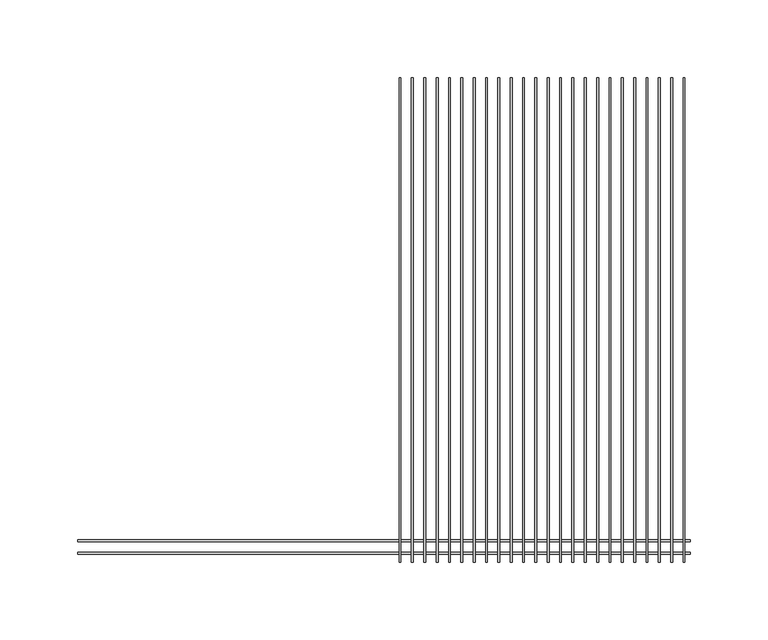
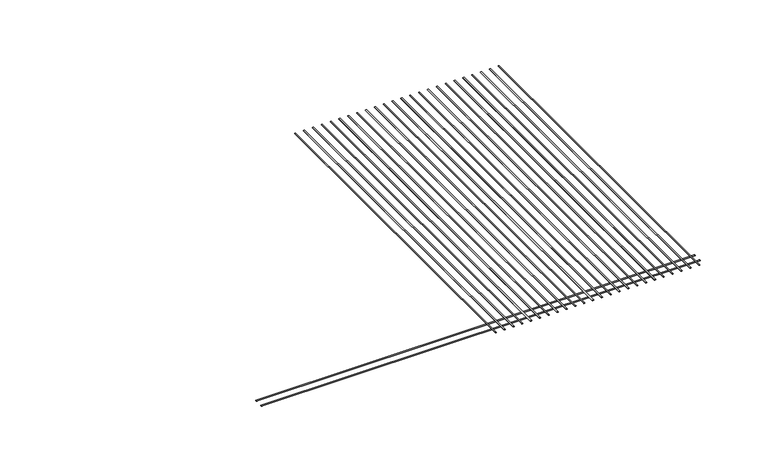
"""IFC4 building model written with IfcOpenShell, lengths in millimetres: proxy geometry, CRAi Generic Model Mesh Piece Face Based : CRAi Generic Model Mesh Piece Face Based."""

from ifc_helpers import new_model, si_unit, point, frame, origin, place, context, project, spatial, ellipse_curve, trimmed, source, transform, mapped, element, save
from ifc_brep_helpers import plane_surface, extruded_surface, advanced_brep


def generic_models_db5184ed(model_context):
    return source(origin(), model_context, "Body", "AdvancedBrep", [
        advanced_brep(
        [(9.7234375, 155.6875423, -2.5796875), (10.9140625, 155.6875423, -2.5796875), (9.7234375, -155.6875423, -2.5796875), (10.9140625, -155.6875423, -2.5796875)],
        [
            (0, 1, ellipse_curve(frame((10.31875, 155.6875423, -2.5796875), z_axis=(0.0, 1.0, 0.0), x_axis=(1.0, 0.0, 0.0)), 0.5953125, 0.1984375)),
            (1, 0, ellipse_curve(frame((10.31875, 155.6875423, -2.5796875), z_axis=(0.0, 1.0, 0.0), x_axis=(1.0, 0.0, 0.0)), 0.5953125, 0.1984375)),
            (2, 3, ellipse_curve(frame((10.31875, -155.6875423, -2.5796875), z_axis=(0.0, -1.0, 0.0), x_axis=(1.0, 0.0, 0.0)), 0.5953125, 0.1984375)),
            (3, 2, ellipse_curve(frame((10.31875, -155.6875423, -2.5796875), z_axis=(0.0, -1.0, 0.0), x_axis=(1.0, 0.0, 0.0)), 0.5953125, 0.1984375)),
            (1, 3),
            (2, 0),
        ],
        [
            plane_surface(frame((10.31875, 155.6875423, -2.5796875), z_axis=(0.0, 1.0, 0.0), x_axis=(0.0, 0.0, 1.0))),
            plane_surface(frame((10.31875, -155.6875423, -2.5796875), z_axis=(0.0, -1.0, 0.0), x_axis=(0.0, 0.0, 1.0))),
            extruded_surface(trimmed(ellipse_curve(frame((10.31875, 155.6875423, -2.5796875), z_axis=(0.0, -1.0, 0.0), x_axis=(1.0, 0.0, 0.0)), 0.5953125, 0.1984375), [point((9.7234375, 155.6875423, -2.5796875))], [point((10.9140625, 155.6875423, -2.5796875))], True, "CARTESIAN"), (0.0, -311.3750846, 0.0), 311.3750846),
            extruded_surface(trimmed(ellipse_curve(frame((10.31875, 155.6875423, -2.5796875), z_axis=(0.0, -1.0, 0.0), x_axis=(1.0, 0.0, 0.0)), 0.5953125, 0.1984375), [point((10.9140625, 155.6875423, -2.5796875))], [point((9.7234375, 155.6875423, -2.5796875))], True, "CARTESIAN"), (0.0, -311.3750846, 0.0), 311.3750846),
        ],
        [
            (0, [[1, 2]]),
            (1, [[3, 4]]),
            (2, [[5, -3, 6, -2]]),
            (3, [[-6, -4, -5, -1]]),
        ],
    ),
        advanced_brep(
        [(17.6609375, 155.6875423, -2.5796875), (18.8515625, 155.6875423, -2.5796875), (17.6609375, -155.6875423, -2.5796875), (18.8515625, -155.6875423, -2.5796875)],
        [
            (0, 1, ellipse_curve(frame((18.25625, 155.6875423, -2.5796875), z_axis=(0.0, 1.0, 0.0), x_axis=(1.0, 0.0, 0.0)), 0.5953125, 0.1984375)),
            (1, 0, ellipse_curve(frame((18.25625, 155.6875423, -2.5796875), z_axis=(0.0, 1.0, 0.0), x_axis=(1.0, 0.0, 0.0)), 0.5953125, 0.1984375)),
            (2, 3, ellipse_curve(frame((18.25625, -155.6875423, -2.5796875), z_axis=(0.0, -1.0, 0.0), x_axis=(1.0, 0.0, 0.0)), 0.5953125, 0.1984375)),
            (3, 2, ellipse_curve(frame((18.25625, -155.6875423, -2.5796875), z_axis=(0.0, -1.0, 0.0), x_axis=(1.0, 0.0, 0.0)), 0.5953125, 0.1984375)),
            (1, 3),
            (2, 0),
        ],
        [
            plane_surface(frame((18.25625, 155.6875423, -2.5796875), z_axis=(0.0, 1.0, 0.0), x_axis=(0.0, 0.0, 1.0))),
            plane_surface(frame((18.25625, -155.6875423, -2.5796875), z_axis=(0.0, -1.0, 0.0), x_axis=(0.0, 0.0, 1.0))),
            extruded_surface(trimmed(ellipse_curve(frame((18.25625, 155.6875423, -2.5796875), z_axis=(0.0, -1.0, 0.0), x_axis=(1.0, 0.0, 0.0)), 0.5953125, 0.1984375), [point((17.6609375, 155.6875423, -2.5796875))], [point((18.8515625, 155.6875423, -2.5796875))], True, "CARTESIAN"), (0.0, -311.3750846, 0.0), 311.3750846),
            extruded_surface(trimmed(ellipse_curve(frame((18.25625, 155.6875423, -2.5796875), z_axis=(0.0, -1.0, 0.0), x_axis=(1.0, 0.0, 0.0)), 0.5953125, 0.1984375), [point((18.8515625, 155.6875423, -2.5796875))], [point((17.6609375, 155.6875423, -2.5796875))], True, "CARTESIAN"), (0.0, -311.3750846, 0.0), 311.3750846),
        ],
        [
            (0, [[1, 2]]),
            (1, [[3, 4]]),
            (2, [[5, -3, 6, -2]]),
            (3, [[-6, -4, -5, -1]]),
        ],
    ),
        advanced_brep(
        [(25.5984375, 155.6875423, -2.5796875), (26.7890625, 155.6875423, -2.5796875), (25.5984375, -155.6875423, -2.5796875), (26.7890625, -155.6875423, -2.5796875)],
        [
            (0, 1, ellipse_curve(frame((26.19375, 155.6875423, -2.5796875), z_axis=(0.0, 1.0, 0.0), x_axis=(1.0, 0.0, 0.0)), 0.5953125, 0.1984375)),
            (1, 0, ellipse_curve(frame((26.19375, 155.6875423, -2.5796875), z_axis=(0.0, 1.0, 0.0), x_axis=(1.0, 0.0, 0.0)), 0.5953125, 0.1984375)),
            (2, 3, ellipse_curve(frame((26.19375, -155.6875423, -2.5796875), z_axis=(0.0, -1.0, 0.0), x_axis=(1.0, 0.0, 0.0)), 0.5953125, 0.1984375)),
            (3, 2, ellipse_curve(frame((26.19375, -155.6875423, -2.5796875), z_axis=(0.0, -1.0, 0.0), x_axis=(1.0, 0.0, 0.0)), 0.5953125, 0.1984375)),
            (1, 3),
            (2, 0),
        ],
        [
            plane_surface(frame((26.19375, 155.6875423, -2.5796875), z_axis=(0.0, 1.0, 0.0), x_axis=(0.0, 0.0, 1.0))),
            plane_surface(frame((26.19375, -155.6875423, -2.5796875), z_axis=(0.0, -1.0, 0.0), x_axis=(0.0, 0.0, 1.0))),
            extruded_surface(trimmed(ellipse_curve(frame((26.19375, 155.6875423, -2.5796875), z_axis=(0.0, -1.0, 0.0), x_axis=(1.0, 0.0, 0.0)), 0.5953125, 0.1984375), [point((25.5984375, 155.6875423, -2.5796875))], [point((26.7890625, 155.6875423, -2.5796875))], True, "CARTESIAN"), (0.0, -311.3750846, 0.0), 311.3750846),
            extruded_surface(trimmed(ellipse_curve(frame((26.19375, 155.6875423, -2.5796875), z_axis=(0.0, -1.0, 0.0), x_axis=(1.0, 0.0, 0.0)), 0.5953125, 0.1984375), [point((26.7890625, 155.6875423, -2.5796875))], [point((25.5984375, 155.6875423, -2.5796875))], True, "CARTESIAN"), (0.0, -311.3750846, 0.0), 311.3750846),
        ],
        [
            (0, [[1, 2]]),
            (1, [[3, 4]]),
            (2, [[5, -3, 6, -2]]),
            (3, [[-6, -4, -5, -1]]),
        ],
    ),
        advanced_brep(
        [(33.5359375, 155.6875423, -2.5796875), (34.7265625, 155.6875423, -2.5796875), (33.5359375, -155.6875423, -2.5796875), (34.7265625, -155.6875423, -2.5796875)],
        [
            (0, 1, ellipse_curve(frame((34.13125, 155.6875423, -2.5796875), z_axis=(0.0, 1.0, 0.0), x_axis=(1.0, 0.0, 0.0)), 0.5953125, 0.1984375)),
            (1, 0, ellipse_curve(frame((34.13125, 155.6875423, -2.5796875), z_axis=(0.0, 1.0, 0.0), x_axis=(1.0, 0.0, 0.0)), 0.5953125, 0.1984375)),
            (2, 3, ellipse_curve(frame((34.13125, -155.6875423, -2.5796875), z_axis=(0.0, -1.0, 0.0), x_axis=(1.0, 0.0, 0.0)), 0.5953125, 0.1984375)),
            (3, 2, ellipse_curve(frame((34.13125, -155.6875423, -2.5796875), z_axis=(0.0, -1.0, 0.0), x_axis=(1.0, 0.0, 0.0)), 0.5953125, 0.1984375)),
            (1, 3),
            (2, 0),
        ],
        [
            plane_surface(frame((34.13125, 155.6875423, -2.5796875), z_axis=(0.0, 1.0, 0.0), x_axis=(0.0, 0.0, 1.0))),
            plane_surface(frame((34.13125, -155.6875423, -2.5796875), z_axis=(0.0, -1.0, 0.0), x_axis=(0.0, 0.0, 1.0))),
            extruded_surface(trimmed(ellipse_curve(frame((34.13125, 155.6875423, -2.5796875), z_axis=(0.0, -1.0, 0.0), x_axis=(1.0, 0.0, 0.0)), 0.5953125, 0.1984375), [point((33.5359375, 155.6875423, -2.5796875))], [point((34.7265625, 155.6875423, -2.5796875))], True, "CARTESIAN"), (0.0, -311.3750846, 0.0), 311.3750846),
            extruded_surface(trimmed(ellipse_curve(frame((34.13125, 155.6875423, -2.5796875), z_axis=(0.0, -1.0, 0.0), x_axis=(1.0, 0.0, 0.0)), 0.5953125, 0.1984375), [point((34.7265625, 155.6875423, -2.5796875))], [point((33.5359375, 155.6875423, -2.5796875))], True, "CARTESIAN"), (0.0, -311.3750846, 0.0), 311.3750846),
        ],
        [
            (0, [[1, 2]]),
            (1, [[3, 4]]),
            (2, [[5, -3, 6, -2]]),
            (3, [[-6, -4, -5, -1]]),
        ],
    ),
        advanced_brep(
        [(41.4734375, 155.6875423, -2.5796875), (42.6640625, 155.6875423, -2.5796875), (41.4734375, -155.6875423, -2.5796875), (42.6640625, -155.6875423, -2.5796875)],
        [
            (0, 1, ellipse_curve(frame((42.06875, 155.6875423, -2.5796875), z_axis=(0.0, 1.0, 0.0), x_axis=(1.0, 0.0, 0.0)), 0.5953125, 0.1984375)),
            (1, 0, ellipse_curve(frame((42.06875, 155.6875423, -2.5796875), z_axis=(0.0, 1.0, 0.0), x_axis=(1.0, 0.0, 0.0)), 0.5953125, 0.1984375)),
            (2, 3, ellipse_curve(frame((42.06875, -155.6875423, -2.5796875), z_axis=(0.0, -1.0, 0.0), x_axis=(1.0, 0.0, 0.0)), 0.5953125, 0.1984375)),
            (3, 2, ellipse_curve(frame((42.06875, -155.6875423, -2.5796875), z_axis=(0.0, -1.0, 0.0), x_axis=(1.0, 0.0, 0.0)), 0.5953125, 0.1984375)),
            (1, 3),
            (2, 0),
        ],
        [
            plane_surface(frame((42.06875, 155.6875423, -2.5796875), z_axis=(0.0, 1.0, 0.0), x_axis=(0.0, 0.0, 1.0))),
            plane_surface(frame((42.06875, -155.6875423, -2.5796875), z_axis=(0.0, -1.0, 0.0), x_axis=(0.0, 0.0, 1.0))),
            extruded_surface(trimmed(ellipse_curve(frame((42.06875, 155.6875423, -2.5796875), z_axis=(0.0, -1.0, 0.0), x_axis=(1.0, 0.0, 0.0)), 0.5953125, 0.1984375), [point((41.4734375, 155.6875423, -2.5796875))], [point((42.6640625, 155.6875423, -2.5796875))], True, "CARTESIAN"), (0.0, -311.3750846, 0.0), 311.3750846),
            extruded_surface(trimmed(ellipse_curve(frame((42.06875, 155.6875423, -2.5796875), z_axis=(0.0, -1.0, 0.0), x_axis=(1.0, 0.0, 0.0)), 0.5953125, 0.1984375), [point((42.6640625, 155.6875423, -2.5796875))], [point((41.4734375, 155.6875423, -2.5796875))], True, "CARTESIAN"), (0.0, -311.3750846, 0.0), 311.3750846),
        ],
        [
            (0, [[1, 2]]),
            (1, [[3, 4]]),
            (2, [[5, -3, 6, -2]]),
            (3, [[-6, -4, -5, -1]]),
        ],
    ),
        advanced_brep(
        [(49.4109375, 155.6875423, -2.5796875), (50.6015625, 155.6875423, -2.5796875), (49.4109375, -155.6875423, -2.5796875), (50.6015625, -155.6875423, -2.5796875)],
        [
            (0, 1, ellipse_curve(frame((50.00625, 155.6875423, -2.5796875), z_axis=(0.0, 1.0, 0.0), x_axis=(1.0, 0.0, 0.0)), 0.5953125, 0.1984375)),
            (1, 0, ellipse_curve(frame((50.00625, 155.6875423, -2.5796875), z_axis=(0.0, 1.0, 0.0), x_axis=(1.0, 0.0, 0.0)), 0.5953125, 0.1984375)),
            (2, 3, ellipse_curve(frame((50.00625, -155.6875423, -2.5796875), z_axis=(0.0, -1.0, 0.0), x_axis=(1.0, 0.0, 0.0)), 0.5953125, 0.1984375)),
            (3, 2, ellipse_curve(frame((50.00625, -155.6875423, -2.5796875), z_axis=(0.0, -1.0, 0.0), x_axis=(1.0, 0.0, 0.0)), 0.5953125, 0.1984375)),
            (1, 3),
            (2, 0),
        ],
        [
            plane_surface(frame((50.00625, 155.6875423, -2.5796875), z_axis=(0.0, 1.0, 0.0), x_axis=(0.0, 0.0, 1.0))),
            plane_surface(frame((50.00625, -155.6875423, -2.5796875), z_axis=(0.0, -1.0, 0.0), x_axis=(0.0, 0.0, 1.0))),
            extruded_surface(trimmed(ellipse_curve(frame((50.00625, 155.6875423, -2.5796875), z_axis=(0.0, -1.0, 0.0), x_axis=(1.0, 0.0, 0.0)), 0.5953125, 0.1984375), [point((49.4109375, 155.6875423, -2.5796875))], [point((50.6015625, 155.6875423, -2.5796875))], True, "CARTESIAN"), (0.0, -311.3750846, 0.0), 311.3750846),
            extruded_surface(trimmed(ellipse_curve(frame((50.00625, 155.6875423, -2.5796875), z_axis=(0.0, -1.0, 0.0), x_axis=(1.0, 0.0, 0.0)), 0.5953125, 0.1984375), [point((50.6015625, 155.6875423, -2.5796875))], [point((49.4109375, 155.6875423, -2.5796875))], True, "CARTESIAN"), (0.0, -311.3750846, 0.0), 311.3750846),
        ],
        [
            (0, [[1, 2]]),
            (1, [[3, 4]]),
            (2, [[5, -3, 6, -2]]),
            (3, [[-6, -4, -5, -1]]),
        ],
    ),
        advanced_brep(
        [(57.3484375, 155.6875423, -2.5796875), (58.5390625, 155.6875423, -2.5796875), (57.3484375, -155.6875423, -2.5796875), (58.5390625, -155.6875423, -2.5796875)],
        [
            (0, 1, ellipse_curve(frame((57.94375, 155.6875423, -2.5796875), z_axis=(0.0, 1.0, 0.0), x_axis=(1.0, 0.0, 0.0)), 0.5953125, 0.1984375)),
            (1, 0, ellipse_curve(frame((57.94375, 155.6875423, -2.5796875), z_axis=(0.0, 1.0, 0.0), x_axis=(1.0, 0.0, 0.0)), 0.5953125, 0.1984375)),
            (2, 3, ellipse_curve(frame((57.94375, -155.6875423, -2.5796875), z_axis=(0.0, -1.0, 0.0), x_axis=(1.0, 0.0, 0.0)), 0.5953125, 0.1984375)),
            (3, 2, ellipse_curve(frame((57.94375, -155.6875423, -2.5796875), z_axis=(0.0, -1.0, 0.0), x_axis=(1.0, 0.0, 0.0)), 0.5953125, 0.1984375)),
            (1, 3),
            (2, 0),
        ],
        [
            plane_surface(frame((57.94375, 155.6875423, -2.5796875), z_axis=(0.0, 1.0, 0.0), x_axis=(0.0, 0.0, 1.0))),
            plane_surface(frame((57.94375, -155.6875423, -2.5796875), z_axis=(0.0, -1.0, 0.0), x_axis=(0.0, 0.0, 1.0))),
            extruded_surface(trimmed(ellipse_curve(frame((57.94375, 155.6875423, -2.5796875), z_axis=(0.0, -1.0, 0.0), x_axis=(1.0, 0.0, 0.0)), 0.5953125, 0.1984375), [point((57.3484375, 155.6875423, -2.5796875))], [point((58.5390625, 155.6875423, -2.5796875))], True, "CARTESIAN"), (0.0, -311.3750846, 0.0), 311.3750846),
            extruded_surface(trimmed(ellipse_curve(frame((57.94375, 155.6875423, -2.5796875), z_axis=(0.0, -1.0, 0.0), x_axis=(1.0, 0.0, 0.0)), 0.5953125, 0.1984375), [point((58.5390625, 155.6875423, -2.5796875))], [point((57.3484375, 155.6875423, -2.5796875))], True, "CARTESIAN"), (0.0, -311.3750846, 0.0), 311.3750846),
        ],
        [
            (0, [[1, 2]]),
            (1, [[3, 4]]),
            (2, [[5, -3, 6, -2]]),
            (3, [[-6, -4, -5, -1]]),
        ],
    ),
        advanced_brep(
        [(65.2859375, 155.6875423, -2.5796875), (66.4765625, 155.6875423, -2.5796875), (65.2859375, -155.6875423, -2.5796875), (66.4765625, -155.6875423, -2.5796875)],
        [
            (0, 1, ellipse_curve(frame((65.88125, 155.6875423, -2.5796875), z_axis=(0.0, 1.0, 0.0), x_axis=(1.0, 0.0, 0.0)), 0.5953125, 0.1984375)),
            (1, 0, ellipse_curve(frame((65.88125, 155.6875423, -2.5796875), z_axis=(0.0, 1.0, 0.0), x_axis=(1.0, 0.0, 0.0)), 0.5953125, 0.1984375)),
            (2, 3, ellipse_curve(frame((65.88125, -155.6875423, -2.5796875), z_axis=(0.0, -1.0, 0.0), x_axis=(1.0, 0.0, 0.0)), 0.5953125, 0.1984375)),
            (3, 2, ellipse_curve(frame((65.88125, -155.6875423, -2.5796875), z_axis=(0.0, -1.0, 0.0), x_axis=(1.0, 0.0, 0.0)), 0.5953125, 0.1984375)),
            (1, 3),
            (2, 0),
        ],
        [
            plane_surface(frame((65.88125, 155.6875423, -2.5796875), z_axis=(0.0, 1.0, 0.0), x_axis=(0.0, 0.0, 1.0))),
            plane_surface(frame((65.88125, -155.6875423, -2.5796875), z_axis=(0.0, -1.0, 0.0), x_axis=(0.0, 0.0, 1.0))),
            extruded_surface(trimmed(ellipse_curve(frame((65.88125, 155.6875423, -2.5796875), z_axis=(0.0, -1.0, 0.0), x_axis=(1.0, 0.0, 0.0)), 0.5953125, 0.1984375), [point((65.2859375, 155.6875423, -2.5796875))], [point((66.4765625, 155.6875423, -2.5796875))], True, "CARTESIAN"), (0.0, -311.3750846, 0.0), 311.3750846),
            extruded_surface(trimmed(ellipse_curve(frame((65.88125, 155.6875423, -2.5796875), z_axis=(0.0, -1.0, 0.0), x_axis=(1.0, 0.0, 0.0)), 0.5953125, 0.1984375), [point((66.4765625, 155.6875423, -2.5796875))], [point((65.2859375, 155.6875423, -2.5796875))], True, "CARTESIAN"), (0.0, -311.3750846, 0.0), 311.3750846),
        ],
        [
            (0, [[1, 2]]),
            (1, [[3, 4]]),
            (2, [[5, -3, 6, -2]]),
            (3, [[-6, -4, -5, -1]]),
        ],
    ),
        advanced_brep(
        [(73.2234375, 155.6875423, -2.5796875), (74.4140625, 155.6875423, -2.5796875), (73.2234375, -155.6875423, -2.5796875), (74.4140625, -155.6875423, -2.5796875)],
        [
            (0, 1, ellipse_curve(frame((73.81875, 155.6875423, -2.5796875), z_axis=(0.0, 1.0, 0.0), x_axis=(1.0, 0.0, 0.0)), 0.5953125, 0.1984375)),
            (1, 0, ellipse_curve(frame((73.81875, 155.6875423, -2.5796875), z_axis=(0.0, 1.0, 0.0), x_axis=(1.0, 0.0, 0.0)), 0.5953125, 0.1984375)),
            (2, 3, ellipse_curve(frame((73.81875, -155.6875423, -2.5796875), z_axis=(0.0, -1.0, 0.0), x_axis=(1.0, 0.0, 0.0)), 0.5953125, 0.1984375)),
            (3, 2, ellipse_curve(frame((73.81875, -155.6875423, -2.5796875), z_axis=(0.0, -1.0, 0.0), x_axis=(1.0, 0.0, 0.0)), 0.5953125, 0.1984375)),
            (1, 3),
            (2, 0),
        ],
        [
            plane_surface(frame((73.81875, 155.6875423, -2.5796875), z_axis=(0.0, 1.0, 0.0), x_axis=(0.0, 0.0, 1.0))),
            plane_surface(frame((73.81875, -155.6875423, -2.5796875), z_axis=(0.0, -1.0, 0.0), x_axis=(0.0, 0.0, 1.0))),
            extruded_surface(trimmed(ellipse_curve(frame((73.81875, 155.6875423, -2.5796875), z_axis=(0.0, -1.0, 0.0), x_axis=(1.0, 0.0, 0.0)), 0.5953125, 0.1984375), [point((73.2234375, 155.6875423, -2.5796875))], [point((74.4140625, 155.6875423, -2.5796875))], True, "CARTESIAN"), (0.0, -311.3750846, 0.0), 311.3750846),
            extruded_surface(trimmed(ellipse_curve(frame((73.81875, 155.6875423, -2.5796875), z_axis=(0.0, -1.0, 0.0), x_axis=(1.0, 0.0, 0.0)), 0.5953125, 0.1984375), [point((74.4140625, 155.6875423, -2.5796875))], [point((73.2234375, 155.6875423, -2.5796875))], True, "CARTESIAN"), (0.0, -311.3750846, 0.0), 311.3750846),
        ],
        [
            (0, [[1, 2]]),
            (1, [[3, 4]]),
            (2, [[5, -3, 6, -2]]),
            (3, [[-6, -4, -5, -1]]),
        ],
    ),
        advanced_brep(
        [(81.1609375, 155.6875423, -2.5796875), (82.3515625, 155.6875423, -2.5796875), (81.1609375, -155.6875423, -2.5796875), (82.3515625, -155.6875423, -2.5796875)],
        [
            (0, 1, ellipse_curve(frame((81.75625, 155.6875423, -2.5796875), z_axis=(0.0, 1.0, 0.0), x_axis=(1.0, 0.0, 0.0)), 0.5953125, 0.1984375)),
            (1, 0, ellipse_curve(frame((81.75625, 155.6875423, -2.5796875), z_axis=(0.0, 1.0, 0.0), x_axis=(1.0, 0.0, 0.0)), 0.5953125, 0.1984375)),
            (2, 3, ellipse_curve(frame((81.75625, -155.6875423, -2.5796875), z_axis=(0.0, -1.0, 0.0), x_axis=(1.0, 0.0, 0.0)), 0.5953125, 0.1984375)),
            (3, 2, ellipse_curve(frame((81.75625, -155.6875423, -2.5796875), z_axis=(0.0, -1.0, 0.0), x_axis=(1.0, 0.0, 0.0)), 0.5953125, 0.1984375)),
            (1, 3),
            (2, 0),
        ],
        [
            plane_surface(frame((81.75625, 155.6875423, -2.5796875), z_axis=(0.0, 1.0, 0.0), x_axis=(0.0, 0.0, 1.0))),
            plane_surface(frame((81.75625, -155.6875423, -2.5796875), z_axis=(0.0, -1.0, 0.0), x_axis=(0.0, 0.0, 1.0))),
            extruded_surface(trimmed(ellipse_curve(frame((81.75625, 155.6875423, -2.5796875), z_axis=(0.0, -1.0, 0.0), x_axis=(1.0, 0.0, 0.0)), 0.5953125, 0.1984375), [point((81.1609375, 155.6875423, -2.5796875))], [point((82.3515625, 155.6875423, -2.5796875))], True, "CARTESIAN"), (0.0, -311.3750846, 0.0), 311.3750846),
            extruded_surface(trimmed(ellipse_curve(frame((81.75625, 155.6875423, -2.5796875), z_axis=(0.0, -1.0, 0.0), x_axis=(1.0, 0.0, 0.0)), 0.5953125, 0.1984375), [point((82.3515625, 155.6875423, -2.5796875))], [point((81.1609375, 155.6875423, -2.5796875))], True, "CARTESIAN"), (0.0, -311.3750846, 0.0), 311.3750846),
        ],
        [
            (0, [[1, 2]]),
            (1, [[3, 4]]),
            (2, [[5, -3, 6, -2]]),
            (3, [[-6, -4, -5, -1]]),
        ],
    ),
        advanced_brep(
        [(89.0984375, 155.6875423, -2.5796875), (90.2890625, 155.6875423, -2.5796875), (89.0984375, -155.6875423, -2.5796875), (90.2890625, -155.6875423, -2.5796875)],
        [
            (0, 1, ellipse_curve(frame((89.69375, 155.6875423, -2.5796875), z_axis=(0.0, 1.0, 0.0), x_axis=(1.0, 0.0, 0.0)), 0.5953125, 0.1984375)),
            (1, 0, ellipse_curve(frame((89.69375, 155.6875423, -2.5796875), z_axis=(0.0, 1.0, 0.0), x_axis=(1.0, 0.0, 0.0)), 0.5953125, 0.1984375)),
            (2, 3, ellipse_curve(frame((89.69375, -155.6875423, -2.5796875), z_axis=(0.0, -1.0, 0.0), x_axis=(1.0, 0.0, 0.0)), 0.5953125, 0.1984375)),
            (3, 2, ellipse_curve(frame((89.69375, -155.6875423, -2.5796875), z_axis=(0.0, -1.0, 0.0), x_axis=(1.0, 0.0, 0.0)), 0.5953125, 0.1984375)),
            (1, 3),
            (2, 0),
        ],
        [
            plane_surface(frame((89.69375, 155.6875423, -2.5796875), z_axis=(0.0, 1.0, 0.0), x_axis=(0.0, 0.0, 1.0))),
            plane_surface(frame((89.69375, -155.6875423, -2.5796875), z_axis=(0.0, -1.0, 0.0), x_axis=(0.0, 0.0, 1.0))),
            extruded_surface(trimmed(ellipse_curve(frame((89.69375, 155.6875423, -2.5796875), z_axis=(0.0, -1.0, 0.0), x_axis=(1.0, 0.0, 0.0)), 0.5953125, 0.1984375), [point((89.0984375, 155.6875423, -2.5796875))], [point((90.2890625, 155.6875423, -2.5796875))], True, "CARTESIAN"), (0.0, -311.3750846, 0.0), 311.3750846),
            extruded_surface(trimmed(ellipse_curve(frame((89.69375, 155.6875423, -2.5796875), z_axis=(0.0, -1.0, 0.0), x_axis=(1.0, 0.0, 0.0)), 0.5953125, 0.1984375), [point((90.2890625, 155.6875423, -2.5796875))], [point((89.0984375, 155.6875423, -2.5796875))], True, "CARTESIAN"), (0.0, -311.3750846, 0.0), 311.3750846),
        ],
        [
            (0, [[1, 2]]),
            (1, [[3, 4]]),
            (2, [[5, -3, 6, -2]]),
            (3, [[-6, -4, -5, -1]]),
        ],
    ),
        advanced_brep(
        [(97.0359375, 155.6875423, -2.5796875), (98.2265625, 155.6875423, -2.5796875), (97.0359375, -155.6875423, -2.5796875), (98.2265625, -155.6875423, -2.5796875)],
        [
            (0, 1, ellipse_curve(frame((97.63125, 155.6875423, -2.5796875), z_axis=(0.0, 1.0, 0.0), x_axis=(1.0, 0.0, 0.0)), 0.5953125, 0.1984375)),
            (1, 0, ellipse_curve(frame((97.63125, 155.6875423, -2.5796875), z_axis=(0.0, 1.0, 0.0), x_axis=(1.0, 0.0, 0.0)), 0.5953125, 0.1984375)),
            (2, 3, ellipse_curve(frame((97.63125, -155.6875423, -2.5796875), z_axis=(0.0, -1.0, 0.0), x_axis=(1.0, 0.0, 0.0)), 0.5953125, 0.1984375)),
            (3, 2, ellipse_curve(frame((97.63125, -155.6875423, -2.5796875), z_axis=(0.0, -1.0, 0.0), x_axis=(1.0, 0.0, 0.0)), 0.5953125, 0.1984375)),
            (1, 3),
            (2, 0),
        ],
        [
            plane_surface(frame((97.63125, 155.6875423, -2.5796875), z_axis=(0.0, 1.0, 0.0), x_axis=(0.0, 0.0, 1.0))),
            plane_surface(frame((97.63125, -155.6875423, -2.5796875), z_axis=(0.0, -1.0, 0.0), x_axis=(0.0, 0.0, 1.0))),
            extruded_surface(trimmed(ellipse_curve(frame((97.63125, 155.6875423, -2.5796875), z_axis=(0.0, -1.0, 0.0), x_axis=(1.0, 0.0, 0.0)), 0.5953125, 0.1984375), [point((97.0359375, 155.6875423, -2.5796875))], [point((98.2265625, 155.6875423, -2.5796875))], True, "CARTESIAN"), (0.0, -311.3750846, 0.0), 311.3750846),
            extruded_surface(trimmed(ellipse_curve(frame((97.63125, 155.6875423, -2.5796875), z_axis=(0.0, -1.0, 0.0), x_axis=(1.0, 0.0, 0.0)), 0.5953125, 0.1984375), [point((98.2265625, 155.6875423, -2.5796875))], [point((97.0359375, 155.6875423, -2.5796875))], True, "CARTESIAN"), (0.0, -311.3750846, 0.0), 311.3750846),
        ],
        [
            (0, [[1, 2]]),
            (1, [[3, 4]]),
            (2, [[5, -3, 6, -2]]),
            (3, [[-6, -4, -5, -1]]),
        ],
    ),
        advanced_brep(
        [(104.9734375, 155.6875423, -2.5796875), (106.1640625, 155.6875423, -2.5796875), (104.9734375, -155.6875423, -2.5796875), (106.1640625, -155.6875423, -2.5796875)],
        [
            (0, 1, ellipse_curve(frame((105.56875, 155.6875423, -2.5796875), z_axis=(0.0, 1.0, 0.0), x_axis=(1.0, 0.0, 0.0)), 0.5953125, 0.1984375)),
            (1, 0, ellipse_curve(frame((105.56875, 155.6875423, -2.5796875), z_axis=(0.0, 1.0, 0.0), x_axis=(1.0, 0.0, 0.0)), 0.5953125, 0.1984375)),
            (2, 3, ellipse_curve(frame((105.56875, -155.6875423, -2.5796875), z_axis=(0.0, -1.0, 0.0), x_axis=(1.0, 0.0, 0.0)), 0.5953125, 0.1984375)),
            (3, 2, ellipse_curve(frame((105.56875, -155.6875423, -2.5796875), z_axis=(0.0, -1.0, 0.0), x_axis=(1.0, 0.0, 0.0)), 0.5953125, 0.1984375)),
            (1, 3),
            (2, 0),
        ],
        [
            plane_surface(frame((105.56875, 155.6875423, -2.5796875), z_axis=(0.0, 1.0, 0.0), x_axis=(0.0, 0.0, 1.0))),
            plane_surface(frame((105.56875, -155.6875423, -2.5796875), z_axis=(0.0, -1.0, 0.0), x_axis=(0.0, 0.0, 1.0))),
            extruded_surface(trimmed(ellipse_curve(frame((105.56875, 155.6875423, -2.5796875), z_axis=(0.0, -1.0, 0.0), x_axis=(1.0, 0.0, 0.0)), 0.5953125, 0.1984375), [point((104.9734375, 155.6875423, -2.5796875))], [point((106.1640625, 155.6875423, -2.5796875))], True, "CARTESIAN"), (0.0, -311.3750846, 0.0), 311.3750846),
            extruded_surface(trimmed(ellipse_curve(frame((105.56875, 155.6875423, -2.5796875), z_axis=(0.0, -1.0, 0.0), x_axis=(1.0, 0.0, 0.0)), 0.5953125, 0.1984375), [point((106.1640625, 155.6875423, -2.5796875))], [point((104.9734375, 155.6875423, -2.5796875))], True, "CARTESIAN"), (0.0, -311.3750846, 0.0), 311.3750846),
        ],
        [
            (0, [[1, 2]]),
            (1, [[3, 4]]),
            (2, [[5, -3, 6, -2]]),
            (3, [[-6, -4, -5, -1]]),
        ],
    ),
        advanced_brep(
        [(112.9109375, 155.6875423, -2.5796875), (114.1015625, 155.6875423, -2.5796875), (112.9109375, -155.6875423, -2.5796875), (114.1015625, -155.6875423, -2.5796875)],
        [
            (0, 1, ellipse_curve(frame((113.50625, 155.6875423, -2.5796875), z_axis=(0.0, 1.0, 0.0), x_axis=(1.0, 0.0, 0.0)), 0.5953125, 0.1984375)),
            (1, 0, ellipse_curve(frame((113.50625, 155.6875423, -2.5796875), z_axis=(0.0, 1.0, 0.0), x_axis=(1.0, 0.0, 0.0)), 0.5953125, 0.1984375)),
            (2, 3, ellipse_curve(frame((113.50625, -155.6875423, -2.5796875), z_axis=(0.0, -1.0, 0.0), x_axis=(1.0, 0.0, 0.0)), 0.5953125, 0.1984375)),
            (3, 2, ellipse_curve(frame((113.50625, -155.6875423, -2.5796875), z_axis=(0.0, -1.0, 0.0), x_axis=(1.0, 0.0, 0.0)), 0.5953125, 0.1984375)),
            (1, 3),
            (2, 0),
        ],
        [
            plane_surface(frame((113.50625, 155.6875423, -2.5796875), z_axis=(0.0, 1.0, 0.0), x_axis=(0.0, 0.0, 1.0))),
            plane_surface(frame((113.50625, -155.6875423, -2.5796875), z_axis=(0.0, -1.0, 0.0), x_axis=(0.0, 0.0, 1.0))),
            extruded_surface(trimmed(ellipse_curve(frame((113.50625, 155.6875423, -2.5796875), z_axis=(0.0, -1.0, 0.0), x_axis=(1.0, 0.0, 0.0)), 0.5953125, 0.1984375), [point((112.9109375, 155.6875423, -2.5796875))], [point((114.1015625, 155.6875423, -2.5796875))], True, "CARTESIAN"), (0.0, -311.3750846, 0.0), 311.3750846),
            extruded_surface(trimmed(ellipse_curve(frame((113.50625, 155.6875423, -2.5796875), z_axis=(0.0, -1.0, 0.0), x_axis=(1.0, 0.0, 0.0)), 0.5953125, 0.1984375), [point((114.1015625, 155.6875423, -2.5796875))], [point((112.9109375, 155.6875423, -2.5796875))], True, "CARTESIAN"), (0.0, -311.3750846, 0.0), 311.3750846),
        ],
        [
            (0, [[1, 2]]),
            (1, [[3, 4]]),
            (2, [[5, -3, 6, -2]]),
            (3, [[-6, -4, -5, -1]]),
        ],
    ),
        advanced_brep(
        [(120.8484375, 155.6875423, -2.5796875), (122.0390625, 155.6875423, -2.5796875), (120.8484375, -155.6875423, -2.5796875), (122.0390625, -155.6875423, -2.5796875)],
        [
            (0, 1, ellipse_curve(frame((121.44375, 155.6875423, -2.5796875), z_axis=(0.0, 1.0, 0.0), x_axis=(1.0, 0.0, 0.0)), 0.5953125, 0.1984375)),
            (1, 0, ellipse_curve(frame((121.44375, 155.6875423, -2.5796875), z_axis=(0.0, 1.0, 0.0), x_axis=(1.0, 0.0, 0.0)), 0.5953125, 0.1984375)),
            (2, 3, ellipse_curve(frame((121.44375, -155.6875423, -2.5796875), z_axis=(0.0, -1.0, 0.0), x_axis=(1.0, 0.0, 0.0)), 0.5953125, 0.1984375)),
            (3, 2, ellipse_curve(frame((121.44375, -155.6875423, -2.5796875), z_axis=(0.0, -1.0, 0.0), x_axis=(1.0, 0.0, 0.0)), 0.5953125, 0.1984375)),
            (1, 3),
            (2, 0),
        ],
        [
            plane_surface(frame((121.44375, 155.6875423, -2.5796875), z_axis=(0.0, 1.0, 0.0), x_axis=(0.0, 0.0, 1.0))),
            plane_surface(frame((121.44375, -155.6875423, -2.5796875), z_axis=(0.0, -1.0, 0.0), x_axis=(0.0, 0.0, 1.0))),
            extruded_surface(trimmed(ellipse_curve(frame((121.44375, 155.6875423, -2.5796875), z_axis=(0.0, -1.0, 0.0), x_axis=(1.0, 0.0, 0.0)), 0.5953125, 0.1984375), [point((120.8484375, 155.6875423, -2.5796875))], [point((122.0390625, 155.6875423, -2.5796875))], True, "CARTESIAN"), (0.0, -311.3750846, 0.0), 311.3750846),
            extruded_surface(trimmed(ellipse_curve(frame((121.44375, 155.6875423, -2.5796875), z_axis=(0.0, -1.0, 0.0), x_axis=(1.0, 0.0, 0.0)), 0.5953125, 0.1984375), [point((122.0390625, 155.6875423, -2.5796875))], [point((120.8484375, 155.6875423, -2.5796875))], True, "CARTESIAN"), (0.0, -311.3750846, 0.0), 311.3750846),
        ],
        [
            (0, [[1, 2]]),
            (1, [[3, 4]]),
            (2, [[5, -3, 6, -2]]),
            (3, [[-6, -4, -5, -1]]),
        ],
    ),
        advanced_brep(
        [(128.7859375, 155.6875423, -2.5796875), (129.9765625, 155.6875423, -2.5796875), (128.7859375, -155.6875423, -2.5796875), (129.9765625, -155.6875423, -2.5796875)],
        [
            (0, 1, ellipse_curve(frame((129.38125, 155.6875423, -2.5796875), z_axis=(0.0, 1.0, 0.0), x_axis=(1.0, 0.0, 0.0)), 0.5953125, 0.1984375)),
            (1, 0, ellipse_curve(frame((129.38125, 155.6875423, -2.5796875), z_axis=(0.0, 1.0, 0.0), x_axis=(1.0, 0.0, 0.0)), 0.5953125, 0.1984375)),
            (2, 3, ellipse_curve(frame((129.38125, -155.6875423, -2.5796875), z_axis=(0.0, -1.0, 0.0), x_axis=(1.0, 0.0, 0.0)), 0.5953125, 0.1984375)),
            (3, 2, ellipse_curve(frame((129.38125, -155.6875423, -2.5796875), z_axis=(0.0, -1.0, 0.0), x_axis=(1.0, 0.0, 0.0)), 0.5953125, 0.1984375)),
            (1, 3),
            (2, 0),
        ],
        [
            plane_surface(frame((129.38125, 155.6875423, -2.5796875), z_axis=(0.0, 1.0, 0.0), x_axis=(0.0, 0.0, 1.0))),
            plane_surface(frame((129.38125, -155.6875423, -2.5796875), z_axis=(0.0, -1.0, 0.0), x_axis=(0.0, 0.0, 1.0))),
            extruded_surface(trimmed(ellipse_curve(frame((129.38125, 155.6875423, -2.5796875), z_axis=(0.0, -1.0, 0.0), x_axis=(1.0, 0.0, 0.0)), 0.5953125, 0.1984375), [point((128.7859375, 155.6875423, -2.5796875))], [point((129.9765625, 155.6875423, -2.5796875))], True, "CARTESIAN"), (0.0, -311.3750846, 0.0), 311.3750846),
            extruded_surface(trimmed(ellipse_curve(frame((129.38125, 155.6875423, -2.5796875), z_axis=(0.0, -1.0, 0.0), x_axis=(1.0, 0.0, 0.0)), 0.5953125, 0.1984375), [point((129.9765625, 155.6875423, -2.5796875))], [point((128.7859375, 155.6875423, -2.5796875))], True, "CARTESIAN"), (0.0, -311.3750846, 0.0), 311.3750846),
        ],
        [
            (0, [[1, 2]]),
            (1, [[3, 4]]),
            (2, [[5, -3, 6, -2]]),
            (3, [[-6, -4, -5, -1]]),
        ],
    ),
        advanced_brep(
        [(136.7234375, 155.6875423, -2.5796875), (137.9140625, 155.6875423, -2.5796875), (136.7234375, -155.6875423, -2.5796875), (137.9140625, -155.6875423, -2.5796875)],
        [
            (0, 1, ellipse_curve(frame((137.31875, 155.6875423, -2.5796875), z_axis=(0.0, 1.0, 0.0), x_axis=(1.0, 0.0, 0.0)), 0.5953125, 0.1984375)),
            (1, 0, ellipse_curve(frame((137.31875, 155.6875423, -2.5796875), z_axis=(0.0, 1.0, 0.0), x_axis=(1.0, 0.0, 0.0)), 0.5953125, 0.1984375)),
            (2, 3, ellipse_curve(frame((137.31875, -155.6875423, -2.5796875), z_axis=(0.0, -1.0, 0.0), x_axis=(1.0, 0.0, 0.0)), 0.5953125, 0.1984375)),
            (3, 2, ellipse_curve(frame((137.31875, -155.6875423, -2.5796875), z_axis=(0.0, -1.0, 0.0), x_axis=(1.0, 0.0, 0.0)), 0.5953125, 0.1984375)),
            (1, 3),
            (2, 0),
        ],
        [
            plane_surface(frame((137.31875, 155.6875423, -2.5796875), z_axis=(0.0, 1.0, 0.0), x_axis=(0.0, 0.0, 1.0))),
            plane_surface(frame((137.31875, -155.6875423, -2.5796875), z_axis=(0.0, -1.0, 0.0), x_axis=(0.0, 0.0, 1.0))),
            extruded_surface(trimmed(ellipse_curve(frame((137.31875, 155.6875423, -2.5796875), z_axis=(0.0, -1.0, 0.0), x_axis=(1.0, 0.0, 0.0)), 0.5953125, 0.1984375), [point((136.7234375, 155.6875423, -2.5796875))], [point((137.9140625, 155.6875423, -2.5796875))], True, "CARTESIAN"), (0.0, -311.3750846, 0.0), 311.3750846),
            extruded_surface(trimmed(ellipse_curve(frame((137.31875, 155.6875423, -2.5796875), z_axis=(0.0, -1.0, 0.0), x_axis=(1.0, 0.0, 0.0)), 0.5953125, 0.1984375), [point((137.9140625, 155.6875423, -2.5796875))], [point((136.7234375, 155.6875423, -2.5796875))], True, "CARTESIAN"), (0.0, -311.3750846, 0.0), 311.3750846),
        ],
        [
            (0, [[1, 2]]),
            (1, [[3, 4]]),
            (2, [[5, -3, 6, -2]]),
            (3, [[-6, -4, -5, -1]]),
        ],
    ),
        advanced_brep(
        [(144.6609375, 155.6875423, -2.5796875), (145.8515625, 155.6875423, -2.5796875), (144.6609375, -155.6875423, -2.5796875), (145.8515625, -155.6875423, -2.5796875)],
        [
            (0, 1, ellipse_curve(frame((145.25625, 155.6875423, -2.5796875), z_axis=(0.0, 1.0, 0.0), x_axis=(1.0, 0.0, 0.0)), 0.5953125, 0.1984375)),
            (1, 0, ellipse_curve(frame((145.25625, 155.6875423, -2.5796875), z_axis=(0.0, 1.0, 0.0), x_axis=(1.0, 0.0, 0.0)), 0.5953125, 0.1984375)),
            (2, 3, ellipse_curve(frame((145.25625, -155.6875423, -2.5796875), z_axis=(0.0, -1.0, 0.0), x_axis=(1.0, 0.0, 0.0)), 0.5953125, 0.1984375)),
            (3, 2, ellipse_curve(frame((145.25625, -155.6875423, -2.5796875), z_axis=(0.0, -1.0, 0.0), x_axis=(1.0, 0.0, 0.0)), 0.5953125, 0.1984375)),
            (1, 3),
            (2, 0),
        ],
        [
            plane_surface(frame((145.25625, 155.6875423, -2.5796875), z_axis=(0.0, 1.0, 0.0), x_axis=(0.0, 0.0, 1.0))),
            plane_surface(frame((145.25625, -155.6875423, -2.5796875), z_axis=(0.0, -1.0, 0.0), x_axis=(0.0, 0.0, 1.0))),
            extruded_surface(trimmed(ellipse_curve(frame((145.25625, 155.6875423, -2.5796875), z_axis=(0.0, -1.0, 0.0), x_axis=(1.0, 0.0, 0.0)), 0.5953125, 0.1984375), [point((144.6609375, 155.6875423, -2.5796875))], [point((145.8515625, 155.6875423, -2.5796875))], True, "CARTESIAN"), (0.0, -311.3750846, 0.0), 311.3750846),
            extruded_surface(trimmed(ellipse_curve(frame((145.25625, 155.6875423, -2.5796875), z_axis=(0.0, -1.0, 0.0), x_axis=(1.0, 0.0, 0.0)), 0.5953125, 0.1984375), [point((145.8515625, 155.6875423, -2.5796875))], [point((144.6609375, 155.6875423, -2.5796875))], True, "CARTESIAN"), (0.0, -311.3750846, 0.0), 311.3750846),
        ],
        [
            (0, [[1, 2]]),
            (1, [[3, 4]]),
            (2, [[5, -3, 6, -2]]),
            (3, [[-6, -4, -5, -1]]),
        ],
    ),
        advanced_brep(
        [(152.5984375, 155.6875423, -2.5796875), (153.7890625, 155.6875423, -2.5796875), (152.5984375, -155.6875423, -2.5796875), (153.7890625, -155.6875423, -2.5796875)],
        [
            (0, 1, ellipse_curve(frame((153.19375, 155.6875423, -2.5796875), z_axis=(0.0, 1.0, 0.0), x_axis=(1.0, 0.0, 0.0)), 0.5953125, 0.1984375)),
            (1, 0, ellipse_curve(frame((153.19375, 155.6875423, -2.5796875), z_axis=(0.0, 1.0, 0.0), x_axis=(1.0, 0.0, 0.0)), 0.5953125, 0.1984375)),
            (2, 3, ellipse_curve(frame((153.19375, -155.6875423, -2.5796875), z_axis=(0.0, -1.0, 0.0), x_axis=(1.0, 0.0, 0.0)), 0.5953125, 0.1984375)),
            (3, 2, ellipse_curve(frame((153.19375, -155.6875423, -2.5796875), z_axis=(0.0, -1.0, 0.0), x_axis=(1.0, 0.0, 0.0)), 0.5953125, 0.1984375)),
            (1, 3),
            (2, 0),
        ],
        [
            plane_surface(frame((153.19375, 155.6875423, -2.5796875), z_axis=(0.0, 1.0, 0.0), x_axis=(0.0, 0.0, 1.0))),
            plane_surface(frame((153.19375, -155.6875423, -2.5796875), z_axis=(0.0, -1.0, 0.0), x_axis=(0.0, 0.0, 1.0))),
            extruded_surface(trimmed(ellipse_curve(frame((153.19375, 155.6875423, -2.5796875), z_axis=(0.0, -1.0, 0.0), x_axis=(1.0, 0.0, 0.0)), 0.5953125, 0.1984375), [point((152.5984375, 155.6875423, -2.5796875))], [point((153.7890625, 155.6875423, -2.5796875))], True, "CARTESIAN"), (0.0, -311.3750846, 0.0), 311.3750846),
            extruded_surface(trimmed(ellipse_curve(frame((153.19375, 155.6875423, -2.5796875), z_axis=(0.0, -1.0, 0.0), x_axis=(1.0, 0.0, 0.0)), 0.5953125, 0.1984375), [point((153.7890625, 155.6875423, -2.5796875))], [point((152.5984375, 155.6875423, -2.5796875))], True, "CARTESIAN"), (0.0, -311.3750846, 0.0), 311.3750846),
        ],
        [
            (0, [[1, 2]]),
            (1, [[3, 4]]),
            (2, [[5, -3, 6, -2]]),
            (3, [[-6, -4, -5, -1]]),
        ],
    ),
        advanced_brep(
        [(160.5359375, 155.6875423, -2.5796875), (161.7265625, 155.6875423, -2.5796875), (160.5359375, -155.6875423, -2.5796875), (161.7265625, -155.6875423, -2.5796875)],
        [
            (0, 1, ellipse_curve(frame((161.13125, 155.6875423, -2.5796875), z_axis=(0.0, 1.0, 0.0), x_axis=(1.0, 0.0, 0.0)), 0.5953125, 0.1984375)),
            (1, 0, ellipse_curve(frame((161.13125, 155.6875423, -2.5796875), z_axis=(0.0, 1.0, 0.0), x_axis=(1.0, 0.0, 0.0)), 0.5953125, 0.1984375)),
            (2, 3, ellipse_curve(frame((161.13125, -155.6875423, -2.5796875), z_axis=(0.0, -1.0, 0.0), x_axis=(1.0, 0.0, 0.0)), 0.5953125, 0.1984375)),
            (3, 2, ellipse_curve(frame((161.13125, -155.6875423, -2.5796875), z_axis=(0.0, -1.0, 0.0), x_axis=(1.0, 0.0, 0.0)), 0.5953125, 0.1984375)),
            (1, 3),
            (2, 0),
        ],
        [
            plane_surface(frame((161.13125, 155.6875423, -2.5796875), z_axis=(0.0, 1.0, 0.0), x_axis=(0.0, 0.0, 1.0))),
            plane_surface(frame((161.13125, -155.6875423, -2.5796875), z_axis=(0.0, -1.0, 0.0), x_axis=(0.0, 0.0, 1.0))),
            extruded_surface(trimmed(ellipse_curve(frame((161.13125, 155.6875423, -2.5796875), z_axis=(0.0, -1.0, 0.0), x_axis=(1.0, 0.0, 0.0)), 0.5953125, 0.1984375), [point((160.5359375, 155.6875423, -2.5796875))], [point((161.7265625, 155.6875423, -2.5796875))], True, "CARTESIAN"), (0.0, -311.3750846, 0.0), 311.3750846),
            extruded_surface(trimmed(ellipse_curve(frame((161.13125, 155.6875423, -2.5796875), z_axis=(0.0, -1.0, 0.0), x_axis=(1.0, 0.0, 0.0)), 0.5953125, 0.1984375), [point((161.7265625, 155.6875423, -2.5796875))], [point((160.5359375, 155.6875423, -2.5796875))], True, "CARTESIAN"), (0.0, -311.3750846, 0.0), 311.3750846),
        ],
        [
            (0, [[1, 2]]),
            (1, [[3, 4]]),
            (2, [[5, -3, 6, -2]]),
            (3, [[-6, -4, -5, -1]]),
        ],
    ),
        advanced_brep(
        [(168.4734375, 155.6875423, -2.5796875), (169.6640625, 155.6875423, -2.5796875), (168.4734375, -155.6875423, -2.5796875), (169.6640625, -155.6875423, -2.5796875)],
        [
            (0, 1, ellipse_curve(frame((169.06875, 155.6875423, -2.5796875), z_axis=(0.0, 1.0, 0.0), x_axis=(1.0, 0.0, 0.0)), 0.5953125, 0.1984375)),
            (1, 0, ellipse_curve(frame((169.06875, 155.6875423, -2.5796875), z_axis=(0.0, 1.0, 0.0), x_axis=(1.0, 0.0, 0.0)), 0.5953125, 0.1984375)),
            (2, 3, ellipse_curve(frame((169.06875, -155.6875423, -2.5796875), z_axis=(0.0, -1.0, 0.0), x_axis=(1.0, 0.0, 0.0)), 0.5953125, 0.1984375)),
            (3, 2, ellipse_curve(frame((169.06875, -155.6875423, -2.5796875), z_axis=(0.0, -1.0, 0.0), x_axis=(1.0, 0.0, 0.0)), 0.5953125, 0.1984375)),
            (1, 3),
            (2, 0),
        ],
        [
            plane_surface(frame((169.06875, 155.6875423, -2.5796875), z_axis=(0.0, 1.0, 0.0), x_axis=(0.0, 0.0, 1.0))),
            plane_surface(frame((169.06875, -155.6875423, -2.5796875), z_axis=(0.0, -1.0, 0.0), x_axis=(0.0, 0.0, 1.0))),
            extruded_surface(trimmed(ellipse_curve(frame((169.06875, 155.6875423, -2.5796875), z_axis=(0.0, -1.0, 0.0), x_axis=(1.0, 0.0, 0.0)), 0.5953125, 0.1984375), [point((168.4734375, 155.6875423, -2.5796875))], [point((169.6640625, 155.6875423, -2.5796875))], True, "CARTESIAN"), (0.0, -311.3750846, 0.0), 311.3750846),
            extruded_surface(trimmed(ellipse_curve(frame((169.06875, 155.6875423, -2.5796875), z_axis=(0.0, -1.0, 0.0), x_axis=(1.0, 0.0, 0.0)), 0.5953125, 0.1984375), [point((169.6640625, 155.6875423, -2.5796875))], [point((168.4734375, 155.6875423, -2.5796875))], True, "CARTESIAN"), (0.0, -311.3750846, 0.0), 311.3750846),
        ],
        [
            (0, [[1, 2]]),
            (1, [[3, 4]]),
            (2, [[5, -3, 6, -2]]),
            (3, [[-6, -4, -5, -1]]),
        ],
    ),
        advanced_brep(
        [(176.4109375, 155.6875423, -2.5796875), (177.6015625, 155.6875423, -2.5796875), (176.4109375, -155.6875423, -2.5796875), (177.6015625, -155.6875423, -2.5796875)],
        [
            (0, 1, ellipse_curve(frame((177.00625, 155.6875423, -2.5796875), z_axis=(0.0, 1.0, 0.0), x_axis=(1.0, 0.0, 0.0)), 0.5953125, 0.1984375)),
            (1, 0, ellipse_curve(frame((177.00625, 155.6875423, -2.5796875), z_axis=(0.0, 1.0, 0.0), x_axis=(1.0, 0.0, 0.0)), 0.5953125, 0.1984375)),
            (2, 3, ellipse_curve(frame((177.00625, -155.6875423, -2.5796875), z_axis=(0.0, -1.0, 0.0), x_axis=(1.0, 0.0, 0.0)), 0.5953125, 0.1984375)),
            (3, 2, ellipse_curve(frame((177.00625, -155.6875423, -2.5796875), z_axis=(0.0, -1.0, 0.0), x_axis=(1.0, 0.0, 0.0)), 0.5953125, 0.1984375)),
            (1, 3),
            (2, 0),
        ],
        [
            plane_surface(frame((177.00625, 155.6875423, -2.5796875), z_axis=(0.0, 1.0, 0.0), x_axis=(0.0, 0.0, 1.0))),
            plane_surface(frame((177.00625, -155.6875423, -2.5796875), z_axis=(0.0, -1.0, 0.0), x_axis=(0.0, 0.0, 1.0))),
            extruded_surface(trimmed(ellipse_curve(frame((177.00625, 155.6875423, -2.5796875), z_axis=(0.0, -1.0, 0.0), x_axis=(1.0, 0.0, 0.0)), 0.5953125, 0.1984375), [point((176.4109375, 155.6875423, -2.5796875))], [point((177.6015625, 155.6875423, -2.5796875))], True, "CARTESIAN"), (0.0, -311.3750846, 0.0), 311.3750846),
            extruded_surface(trimmed(ellipse_curve(frame((177.00625, 155.6875423, -2.5796875), z_axis=(0.0, -1.0, 0.0), x_axis=(1.0, 0.0, 0.0)), 0.5953125, 0.1984375), [point((177.6015625, 155.6875423, -2.5796875))], [point((176.4109375, 155.6875423, -2.5796875))], True, "CARTESIAN"), (0.0, -311.3750846, 0.0), 311.3750846),
        ],
        [
            (0, [[1, 2]]),
            (1, [[3, 4]]),
            (2, [[5, -3, 6, -2]]),
            (3, [[-6, -4, -5, -1]]),
        ],
    ),
        advanced_brep(
        [(184.3484375, 155.6875423, -2.5796875), (185.5390625, 155.6875423, -2.5796875), (184.3484375, -155.6875423, -2.5796875), (185.5390625, -155.6875423, -2.5796875)],
        [
            (0, 1, ellipse_curve(frame((184.94375, 155.6875423, -2.5796875), z_axis=(0.0, 1.0, 0.0), x_axis=(1.0, 0.0, 0.0)), 0.5953125, 0.1984375)),
            (1, 0, ellipse_curve(frame((184.94375, 155.6875423, -2.5796875), z_axis=(0.0, 1.0, 0.0), x_axis=(1.0, 0.0, 0.0)), 0.5953125, 0.1984375)),
            (2, 3, ellipse_curve(frame((184.94375, -155.6875423, -2.5796875), z_axis=(0.0, -1.0, 0.0), x_axis=(1.0, 0.0, 0.0)), 0.5953125, 0.1984375)),
            (3, 2, ellipse_curve(frame((184.94375, -155.6875423, -2.5796875), z_axis=(0.0, -1.0, 0.0), x_axis=(1.0, 0.0, 0.0)), 0.5953125, 0.1984375)),
            (1, 3),
            (2, 0),
        ],
        [
            plane_surface(frame((184.94375, 155.6875423, -2.5796875), z_axis=(0.0, 1.0, 0.0), x_axis=(0.0, 0.0, 1.0))),
            plane_surface(frame((184.94375, -155.6875423, -2.5796875), z_axis=(0.0, -1.0, 0.0), x_axis=(0.0, 0.0, 1.0))),
            extruded_surface(trimmed(ellipse_curve(frame((184.94375, 155.6875423, -2.5796875), z_axis=(0.0, -1.0, 0.0), x_axis=(1.0, 0.0, 0.0)), 0.5953125, 0.1984375), [point((184.3484375, 155.6875423, -2.5796875))], [point((185.5390625, 155.6875423, -2.5796875))], True, "CARTESIAN"), (0.0, -311.3750846, 0.0), 311.3750846),
            extruded_surface(trimmed(ellipse_curve(frame((184.94375, 155.6875423, -2.5796875), z_axis=(0.0, -1.0, 0.0), x_axis=(1.0, 0.0, 0.0)), 0.5953125, 0.1984375), [point((185.5390625, 155.6875423, -2.5796875))], [point((184.3484375, 155.6875423, -2.5796875))], True, "CARTESIAN"), (0.0, -311.3750846, 0.0), 311.3750846),
        ],
        [
            (0, [[1, 2]]),
            (1, [[3, 4]]),
            (2, [[5, -3, 6, -2]]),
            (3, [[-6, -4, -5, -1]]),
        ],
    ),
        advanced_brep(
        [(192.2859375, 155.6875423, -2.5796875), (193.4765625, 155.6875423, -2.5796875), (192.2859375, -155.6875423, -2.5796875), (193.4765625, -155.6875423, -2.5796875)],
        [
            (0, 1, ellipse_curve(frame((192.88125, 155.6875423, -2.5796875), z_axis=(0.0, 1.0, 0.0), x_axis=(1.0, 0.0, 0.0)), 0.5953125, 0.1984375)),
            (1, 0, ellipse_curve(frame((192.88125, 155.6875423, -2.5796875), z_axis=(0.0, 1.0, 0.0), x_axis=(1.0, 0.0, 0.0)), 0.5953125, 0.1984375)),
            (2, 3, ellipse_curve(frame((192.88125, -155.6875423, -2.5796875), z_axis=(0.0, -1.0, 0.0), x_axis=(1.0, 0.0, 0.0)), 0.5953125, 0.1984375)),
            (3, 2, ellipse_curve(frame((192.88125, -155.6875423, -2.5796875), z_axis=(0.0, -1.0, 0.0), x_axis=(1.0, 0.0, 0.0)), 0.5953125, 0.1984375)),
            (1, 3),
            (2, 0),
        ],
        [
            plane_surface(frame((192.88125, 155.6875423, -2.5796875), z_axis=(0.0, 1.0, 0.0), x_axis=(0.0, 0.0, 1.0))),
            plane_surface(frame((192.88125, -155.6875423, -2.5796875), z_axis=(0.0, -1.0, 0.0), x_axis=(0.0, 0.0, 1.0))),
            extruded_surface(trimmed(ellipse_curve(frame((192.88125, 155.6875423, -2.5796875), z_axis=(0.0, -1.0, 0.0), x_axis=(1.0, 0.0, 0.0)), 0.5953125, 0.1984375), [point((192.2859375, 155.6875423, -2.5796875))], [point((193.4765625, 155.6875423, -2.5796875))], True, "CARTESIAN"), (0.0, -311.3750846, 0.0), 311.3750846),
            extruded_surface(trimmed(ellipse_curve(frame((192.88125, 155.6875423, -2.5796875), z_axis=(0.0, -1.0, 0.0), x_axis=(1.0, 0.0, 0.0)), 0.5953125, 0.1984375), [point((193.4765625, 155.6875423, -2.5796875))], [point((192.2859375, 155.6875423, -2.5796875))], True, "CARTESIAN"), (0.0, -311.3750846, 0.0), 311.3750846),
        ],
        [
            (0, [[1, 2]]),
            (1, [[3, 4]]),
            (2, [[5, -3, 6, -2]]),
            (3, [[-6, -4, -5, -1]]),
        ],
    ),
        advanced_brep(
        [(-196.85, -150.5015202, -2.9765625), (-196.85, -149.3108952, -2.9765625), (196.85, -150.5015202, -2.9765625), (196.85, -149.3108952, -2.9765625)],
        [
            (0, 1, ellipse_curve(frame((-196.85, -149.9062077, -2.9765625), z_axis=(-1.0, 0.0, 0.0), x_axis=(0.0, 1.0, 0.0)), 0.5953125, 0.1984375)),
            (1, 0, ellipse_curve(frame((-196.85, -149.9062077, -2.9765625), z_axis=(-1.0, 0.0, 0.0), x_axis=(0.0, 1.0, 0.0)), 0.5953125, 0.1984375)),
            (2, 3, ellipse_curve(frame((196.85, -149.9062077, -2.9765625), z_axis=(1.0, 0.0, 0.0), x_axis=(0.0, 1.0, 0.0)), 0.5953125, 0.1984375)),
            (3, 2, ellipse_curve(frame((196.85, -149.9062077, -2.9765625), z_axis=(1.0, 0.0, 0.0), x_axis=(0.0, 1.0, 0.0)), 0.5953125, 0.1984375)),
            (1, 3),
            (2, 0),
        ],
        [
            plane_surface(frame((-196.85, -149.9062077, -2.9765625), z_axis=(-1.0, 0.0, 0.0), x_axis=(0.0, 0.0, 1.0))),
            plane_surface(frame((196.85, -149.9062077, -2.9765625), z_axis=(1.0, 0.0, 0.0), x_axis=(0.0, 0.0, 1.0))),
            extruded_surface(trimmed(ellipse_curve(frame((-196.85, -149.9062077, -2.9765625), z_axis=(1.0, 0.0, 0.0), x_axis=(0.0, 1.0, 0.0)), 0.5953125, 0.1984375), [point((-196.85, -150.5015202, -2.9765625))], [point((-196.85, -149.3108952, -2.9765625))], True, "CARTESIAN"), (393.7, 0.0, 0.0), 393.7),
            extruded_surface(trimmed(ellipse_curve(frame((-196.85, -149.9062077, -2.9765625), z_axis=(1.0, 0.0, 0.0), x_axis=(0.0, 1.0, 0.0)), 0.5953125, 0.1984375), [point((-196.85, -149.3108952, -2.9765625))], [point((-196.85, -150.5015202, -2.9765625))], True, "CARTESIAN"), (393.7, 0.0, 0.0), 393.7),
        ],
        [
            (0, [[1, 2]]),
            (1, [[3, 4]]),
            (2, [[5, -3, 6, -2]]),
            (3, [[-6, -4, -5, -1]]),
        ],
    ),
        advanced_brep(
        [(-196.85, -142.5640202, -2.9765625), (-196.85, -141.3733952, -2.9765625), (196.85, -142.5640202, -2.9765625), (196.85, -141.3733952, -2.9765625)],
        [
            (0, 1, ellipse_curve(frame((-196.85, -141.9687077, -2.9765625), z_axis=(-1.0, 0.0, 0.0), x_axis=(0.0, 1.0, 0.0)), 0.5953125, 0.1984375)),
            (1, 0, ellipse_curve(frame((-196.85, -141.9687077, -2.9765625), z_axis=(-1.0, 0.0, 0.0), x_axis=(0.0, 1.0, 0.0)), 0.5953125, 0.1984375)),
            (2, 3, ellipse_curve(frame((196.85, -141.9687077, -2.9765625), z_axis=(1.0, 0.0, 0.0), x_axis=(0.0, 1.0, 0.0)), 0.5953125, 0.1984375)),
            (3, 2, ellipse_curve(frame((196.85, -141.9687077, -2.9765625), z_axis=(1.0, 0.0, 0.0), x_axis=(0.0, 1.0, 0.0)), 0.5953125, 0.1984375)),
            (1, 3),
            (2, 0),
        ],
        [
            plane_surface(frame((-196.85, -141.9687077, -2.9765625), z_axis=(-1.0, 0.0, 0.0), x_axis=(0.0, 0.0, 1.0))),
            plane_surface(frame((196.85, -141.9687077, -2.9765625), z_axis=(1.0, 0.0, 0.0), x_axis=(0.0, 0.0, 1.0))),
            extruded_surface(trimmed(ellipse_curve(frame((-196.85, -141.9687077, -2.9765625), z_axis=(1.0, 0.0, 0.0), x_axis=(0.0, 1.0, 0.0)), 0.5953125, 0.1984375), [point((-196.85, -142.5640202, -2.9765625))], [point((-196.85, -141.3733952, -2.9765625))], True, "CARTESIAN"), (393.7, 0.0, 0.0), 393.7),
            extruded_surface(trimmed(ellipse_curve(frame((-196.85, -141.9687077, -2.9765625), z_axis=(1.0, 0.0, 0.0), x_axis=(0.0, 1.0, 0.0)), 0.5953125, 0.1984375), [point((-196.85, -141.3733952, -2.9765625))], [point((-196.85, -142.5640202, -2.9765625))], True, "CARTESIAN"), (393.7, 0.0, 0.0), 393.7),
        ],
        [
            (0, [[1, 2]]),
            (1, [[3, 4]]),
            (2, [[5, -3, 6, -2]]),
            (3, [[-6, -4, -5, -1]]),
        ],
    ),
    ])


if __name__ == "__main__":
    model = new_model("IFC4")
    model_context = context("Model", 3, world=origin())
    ifc_project = project(units=[si_unit("LENGTHUNIT", "METRE", prefix="MILLI")], contexts=[model_context])
    site = spatial("IfcSite", under=ifc_project)
    building = spatial("IfcBuilding", under=site)
    placement = place(None, origin())
    generic_models_shape = generic_models_db5184ed(model_context)
    element("IfcBuildingElementProxy", 1, Name="CRAi Generic Model Mesh Piece Face Based : CRAi Generic Model Mesh Piece Face Based", ObjectType="CRAi Generic Model Mesh Piece Face Based : CRAi Generic Model Mesh Piece Face Based", at=placement, inside=building, context=model_context, shape_type="MappedRepresentation", body=[
        mapped(generic_models_shape, transform((0.0, 0.0, 0.0), x_axis=(1.0, 0.0, 0.0), y_axis=(0.0, 1.0, 0.0), z_axis=(0.0, 0.0, 1.0))),
    ])
    save(model, "model.ifc")
